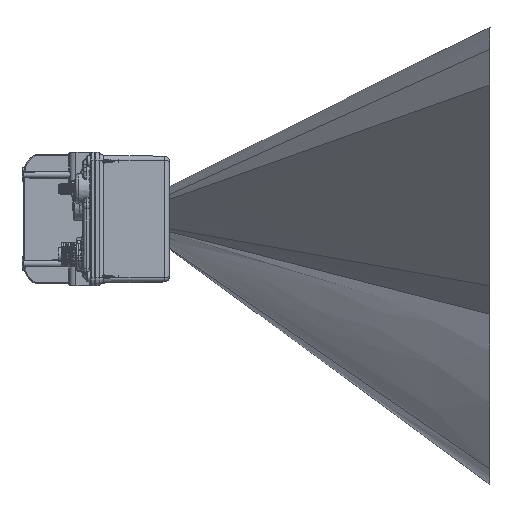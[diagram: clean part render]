
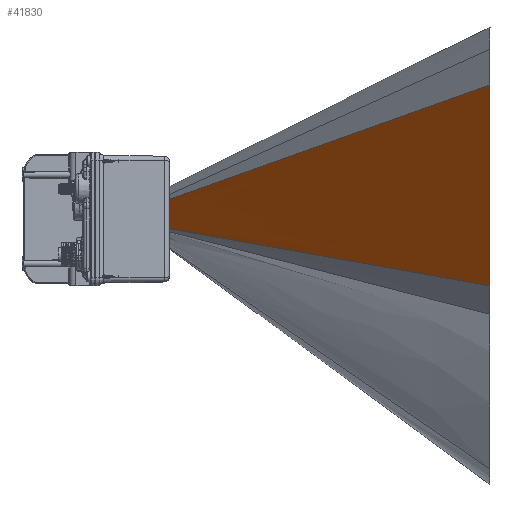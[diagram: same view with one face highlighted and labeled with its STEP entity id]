
A CAD part, top view. The second image highlights one B-rep face of the part: STEP entity #41830.
In plain terms, the highlighted free-form (B-spline) face has degree [3, 3] with [4, 4] control points.
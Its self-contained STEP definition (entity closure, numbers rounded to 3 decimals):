
#685=B_SPLINE_SURFACE_WITH_KNOTS('',3,3,((#140672,#140673,#140674,#140675),
(#140676,#140677,#140678,#140679),(#140680,#140681,#140682,#140683),(#140684,
#140685,#140686,#140687)),.UNSPECIFIED.,.F.,.F.,.F.,(4,4),(4,4),(0.,1.),
(0.,1.),.UNSPECIFIED.);
#6571=FACE_OUTER_BOUND('',#9059,.T.);
#9059=EDGE_LOOP('',(#36584,#36585,#36586,#36587));
#10662=LINE('',#140601,#12273);
#10669=LINE('',#140649,#12280);
#10670=LINE('',#140671,#12281);
#10671=LINE('',#140688,#12282);
#12273=VECTOR('',#56541,10.);
#12280=VECTOR('',#56564,10.);
#12281=VECTOR('',#56565,319.208);
#12282=VECTOR('',#56566,310.906);
#18404=VERTEX_POINT('',#140598);
#18405=VERTEX_POINT('',#140600);
#18420=VERTEX_POINT('',#140646);
#18421=VERTEX_POINT('',#140648);
#24460=EDGE_CURVE('',#18404,#18405,#10662,.T.);
#24477=EDGE_CURVE('',#18421,#18420,#10669,.T.);
#24479=EDGE_CURVE('',#18421,#18404,#10670,.T.);
#24480=EDGE_CURVE('',#18420,#18405,#10671,.T.);
#36584=ORIENTED_EDGE('',*,*,#24477,.T.);
#36585=ORIENTED_EDGE('',*,*,#24480,.T.);
#36586=ORIENTED_EDGE('',*,*,#24460,.F.);
#36587=ORIENTED_EDGE('',*,*,#24479,.F.);
#41830=ADVANCED_FACE('',(#6571),#685,.T.);
#56541=DIRECTION('',(0.,-0.999,-0.035));
#56564=DIRECTION('',(0.,-1.,-0.013));
#56565=DIRECTION('',(0.595,0.211,0.775));
#56566=DIRECTION('',(0.611,-0.11,0.784));
#140598=CARTESIAN_POINT('',(200.,75.,269.));
#140600=CARTESIAN_POINT('',(200.,-38.,265.054));
#140601=CARTESIAN_POINT('',(200.,75.,269.));
#140646=CARTESIAN_POINT('',(10.,-3.781,21.351));
#140648=CARTESIAN_POINT('',(10.,7.639,21.5));
#140649=CARTESIAN_POINT('',(10.,7.639,21.5));
#140671=CARTESIAN_POINT('',(10.,7.639,21.5));
#140672=CARTESIAN_POINT('Ctrl Pts',(10.,7.639,21.5));
#140673=CARTESIAN_POINT('Ctrl Pts',(73.333,30.093,104.));
#140674=CARTESIAN_POINT('Ctrl Pts',(136.667,52.546,186.5));
#140675=CARTESIAN_POINT('Ctrl Pts',(200.,75.,269.));
#140676=CARTESIAN_POINT('Ctrl Pts',(10.,3.832,21.45));
#140677=CARTESIAN_POINT('Ctrl Pts',(73.333,14.999,103.528));
#140678=CARTESIAN_POINT('Ctrl Pts',(136.667,26.166,185.606));
#140679=CARTESIAN_POINT('Ctrl Pts',(200.,37.333,267.685));
#140680=CARTESIAN_POINT('Ctrl Pts',(10.,0.026,21.4));
#140681=CARTESIAN_POINT('Ctrl Pts',(73.333,-0.094,
103.057));
#140682=CARTESIAN_POINT('Ctrl Pts',(136.667,-0.214,
184.713));
#140683=CARTESIAN_POINT('Ctrl Pts',(200.,-0.333,266.369));
#140684=CARTESIAN_POINT('Ctrl Pts',(10.,-3.781,21.351));
#140685=CARTESIAN_POINT('Ctrl Pts',(73.333,-15.187,
102.585));
#140686=CARTESIAN_POINT('Ctrl Pts',(136.667,-26.594,
183.819));
#140687=CARTESIAN_POINT('Ctrl Pts',(200.,-38.,265.054));
#140688=CARTESIAN_POINT('',(10.,-3.781,21.351));
